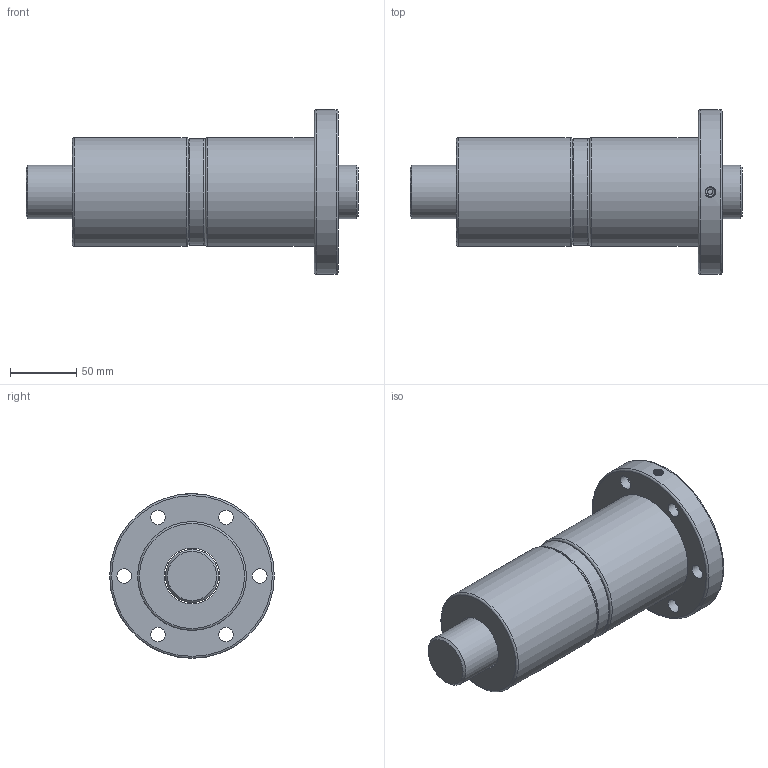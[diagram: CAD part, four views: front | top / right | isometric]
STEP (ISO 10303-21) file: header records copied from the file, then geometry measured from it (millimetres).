
FILE_DESCRIPTION(/* description */ ('Unknown','CAx-IF Rec.Pracs.---Representation and Presentation of Product Manufacturing Information (PMI)---4.0---2014-10-13','CAx-IF Rec.Pracs.---3D Tessellated Geometry---0.4---2014-09-14','2;1'),/* implementation_level */ '2;1');
FILE_NAME(/* name */ 'DFV04020',/* time_stamp */ '2020-12-08T12:06:36+08:00',/* author */ ('Unknown'),/* organization */ ('Unknown'),/* preprocessor_version */ 'ST-DEVELOPER v16.7',/* originating_system */ 'Solid Edge',/* authorisation */ 'Unknown');
FILE_SCHEMA (('AP242_MANAGED_MODEL_BASED_3D_ENGINEERING_MIM_LF { 1 0 10303 442 1 1 4 }'));
Length unit declared in the file: millimetre
Products named in the file (1): DFV04020
Bounding box: 250 x 124 x 124 mm (x, y, z)
Volume: 1190504.2 mm3; surface area: 140192.2 mm2
Topology: 2 solids, 2 shells, 48 faces, 104 edges, 67 vertices
Faces by surface type: cylinder 22, plane 14, torus 7, cone 3, bspline 2
Full cylindrical faces by diameter (mm): 4 x1, 6.917 x1, 11 x6, 17.5 x6, 40 x1, 42 x1, 80 x1, 82 x2, 124 x1
Entity records: 2998 total; most frequent: CARTESIAN_POINT 2026, DIRECTION 200, ORIENTED_EDGE 122, EDGE_LOOP 103, FACE_BOUND 103, AXIS2_PLACEMENT_3D 101, EDGE_CURVE 61, VERTEX_POINT 56
